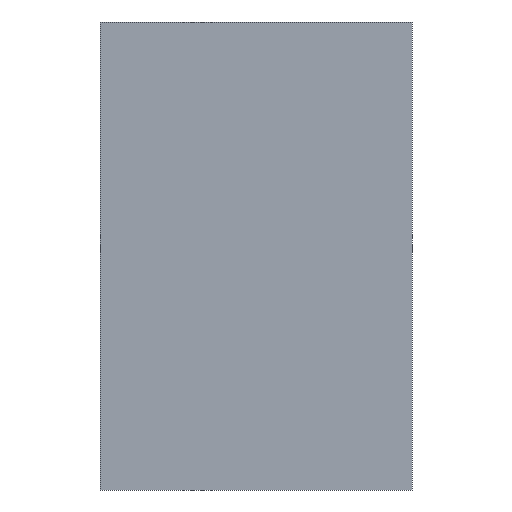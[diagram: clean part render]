
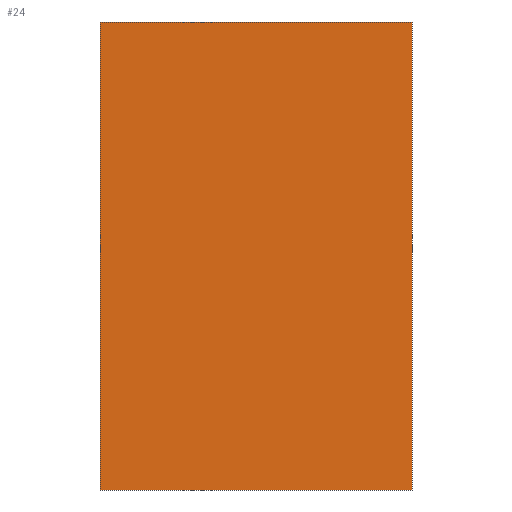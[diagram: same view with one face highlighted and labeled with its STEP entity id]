
A CAD part, front view. The second image highlights one B-rep face of the part: STEP entity #24.
In plain terms, the highlighted planar face has unit normal (0, -1, 0).
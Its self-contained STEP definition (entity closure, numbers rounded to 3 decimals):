
#2 = DIRECTION ( 'NONE',  ( 0., -1., 0. ) ) ;
#5 = CARTESIAN_POINT ( 'NONE',  ( 0., 0., 1350. ) ) ;
#11 = AXIS2_PLACEMENT_3D ( 'NONE', #127, #2, #43 ) ;
#15 = EDGE_CURVE ( 'NONE', #60, #61, #55, .T. ) ;
#20 = ORIENTED_EDGE ( 'NONE', *, *, #124, .F. ) ;
#23 = VERTEX_POINT ( 'NONE', #112 ) ;
#24 = ADVANCED_FACE ( 'NONE', ( #95 ), #163, .T. ) ;
#38 = EDGE_CURVE ( 'NONE', #221, #60, #151, .T. ) ;
#43 = DIRECTION ( 'NONE',  ( 1., 0., 0. ) ) ;
#44 = CARTESIAN_POINT ( 'NONE',  ( -900., 0., 1350. ) ) ;
#47 = CARTESIAN_POINT ( 'NONE',  ( 0., 0., 1350. ) ) ;
#55 = LINE ( 'NONE', #44, #88 ) ;
#57 = CARTESIAN_POINT ( 'NONE',  ( 0., 0., 1350. ) ) ;
#60 = VERTEX_POINT ( 'NONE', #203 ) ;
#61 = VERTEX_POINT ( 'NONE', #237 ) ;
#65 = LINE ( 'NONE', #229, #170 ) ;
#68 = DIRECTION ( 'NONE',  ( -1., 0., 0. ) ) ;
#79 = DIRECTION ( 'NONE',  ( 0., 0., -1. ) ) ;
#88 = VECTOR ( 'NONE', #222, 1000. ) ;
#90 = ORIENTED_EDGE ( 'NONE', *, *, #15, .T. ) ;
#95 = FACE_OUTER_BOUND ( 'NONE', #131, .T. ) ;
#111 = DIRECTION ( 'NONE',  ( -1., 0., 0. ) ) ;
#112 = CARTESIAN_POINT ( 'NONE',  ( 0., 0., 0. ) ) ;
#124 = EDGE_CURVE ( 'NONE', #221, #23, #182, .T. ) ;
#125 = ORIENTED_EDGE ( 'NONE', *, *, #38, .T. ) ;
#127 = CARTESIAN_POINT ( 'NONE',  ( 0., 0., 1350. ) ) ;
#131 = EDGE_LOOP ( 'NONE', ( #224, #20, #125, #90 ) ) ;
#143 = VECTOR ( 'NONE', #79, 1000. ) ;
#151 = LINE ( 'NONE', #57, #215 ) ;
#152 = EDGE_CURVE ( 'NONE', #23, #61, #65, .T. ) ;
#163 = PLANE ( 'NONE',  #11 ) ;
#170 = VECTOR ( 'NONE', #68, 1000. ) ;
#182 = LINE ( 'NONE', #5, #143 ) ;
#203 = CARTESIAN_POINT ( 'NONE',  ( -900., 0., 1350. ) ) ;
#215 = VECTOR ( 'NONE', #111, 1000. ) ;
#221 = VERTEX_POINT ( 'NONE', #47 ) ;
#222 = DIRECTION ( 'NONE',  ( 0., 0., -1. ) ) ;
#224 = ORIENTED_EDGE ( 'NONE', *, *, #152, .F. ) ;
#229 = CARTESIAN_POINT ( 'NONE',  ( 0., 0., 0. ) ) ;
#237 = CARTESIAN_POINT ( 'NONE',  ( -900., 0., 0. ) ) ;
